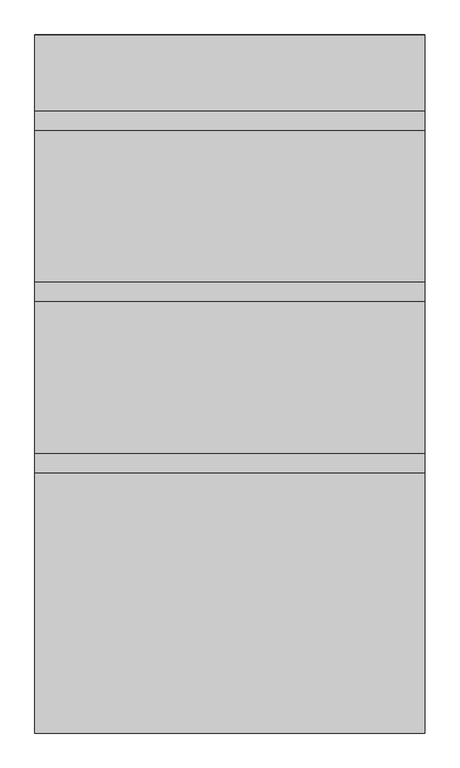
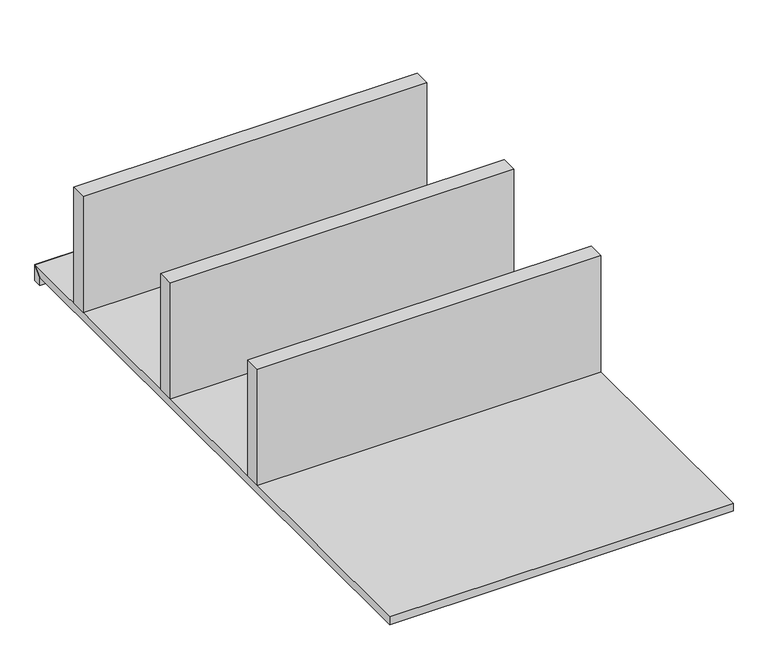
"""IFC4 building model written with IfcOpenShell, lengths in millimetres: proxy geometry, FOUNDATION^PO 3_WALL HUNG 3 SHELVES-PARTS SOLID."""

from ifc_helpers import new_model, si_unit, frame, origin, origin_with_axes, place, context, project, spatial, polyline, outline, extrude, source, transform, mapped, element, save


def generic_models_824efbd5(model_context):
    return source(origin(), model_context, "Body", "SweptSolid", [
        extrude(outline(polyline([(781.05, 901.7), (781.05, 863.6), (0.0, 863.6), (0.0, 901.7), (781.05, 901.7)])), origin_with_axes(), (0.0, 0.0, 1.0), 279.4),
        extrude(outline(polyline([(781.05, 558.8), (781.05, 520.7), (0.0, 520.7), (0.0, 558.8), (781.05, 558.8)])), origin_with_axes(), (0.0, 0.0, 1.0), 279.4),
        extrude(outline(polyline([(781.05, 1206.5), (0.0, 1206.5), (0.0, 1244.6), (781.05, 1244.6), (781.05, 1206.5)])), origin_with_axes(), (0.0, 0.0, 1.0), 279.4),
        extrude(outline(polyline([(1397.0, -38.1), (1377.95, -38.1), (1377.95, -19.05), (1397.0, 0.0), (1397.0, -38.1)])), frame((0.0, 0.0, 0.0), z_axis=(1.0, 0.0, 0.0), x_axis=(0.0, 1.0, 0.0)), (0.0, 0.0, 1.0), 781.05),
        extrude(outline(polyline([(1397.0, 0.0), (1377.95, -19.05), (0.0, -19.05), (0.0, 0.0), (1397.0, 0.0)])), frame((0.0, 0.0, 0.0), z_axis=(1.0, 0.0, 0.0), x_axis=(0.0, 1.0, 0.0)), (0.0, 0.0, 1.0), 781.05),
    ])


if __name__ == "__main__":
    model = new_model("IFC4")
    model_context = context("Model", 3, world=origin())
    ifc_project = project(units=[si_unit("LENGTHUNIT", "METRE", prefix="MILLI")], contexts=[model_context])
    site = spatial("IfcSite", under=ifc_project)
    building = spatial("IfcBuilding", under=site)
    placement = place(None, origin())
    generic_models_shape = generic_models_824efbd5(model_context)
    element("IfcBuildingElementProxy", 1, Name="FOUNDATION^PO 3_WALL HUNG 3 SHELVES-PARTS SOLID", ObjectType="FOUNDATION^PO 3_WALL HUNG 3 SHELVES-PARTS SOLID", at=placement, inside=building, context=model_context, shape_type="MappedRepresentation", body=[
        mapped(generic_models_shape, transform((0.0, 0.0, 0.0), x_axis=(1.0, 0.0, 0.0), y_axis=(0.0, 1.0, 0.0), z_axis=(0.0, 0.0, 1.0))),
    ])
    save(model, "model.ifc")
